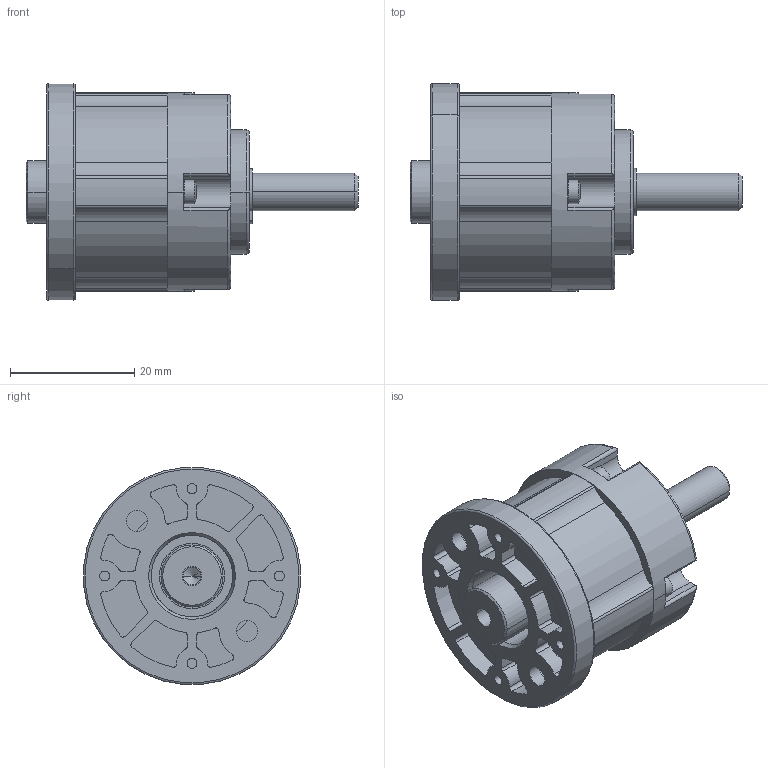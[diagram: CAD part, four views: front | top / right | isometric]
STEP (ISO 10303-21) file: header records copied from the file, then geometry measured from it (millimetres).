
FILE_DESCRIPTION((''),'2;1');
FILE_NAME('IMS32_ECO_1_STAGE_ASM','2023-07-27T09:24:16',('mhummel'),(''),'CREO PARAMETRIC BY PTC INC, 2020184','CREO PARAMETRIC BY PTC INC, 2020184','');
FILE_SCHEMA(('AUTOMOTIVE_DESIGN { 1 0 10303 214 1 1 1 1 }'));
Length unit declared in the file: millimetre
Products named in the file (12): IMS32_ECO_BALL_BEARING; IMS32_ECO_SINTERED_BEARING; IMS32_ECO_RING_GEAR_1_STAGE; IMS32_ECO_MOTOR_FLANGE; IMS32_ECO_SHAFT_RAW_AF0; IMS32_ECO_SHAFT_ASM; IMS32_ECO_RETAINING_RING_A; IMS32_ECO_THRUST_WASHER; IMS32_ECO_SCREW_1_STAGE; IMS32_ECO_MOTOR_PINION_LONG; IMS32_ECO_MOTOR_PINION_SHORT; IMS32_ECO_1_STAGE_ASM
Assembly tree (14 placements, depth 3):
  IMS32_ECO_1_STAGE_ASM
    IMS32_ECO_BALL_BEARING
    IMS32_ECO_SINTERED_BEARING
    IMS32_ECO_RING_GEAR_1_STAGE
    IMS32_ECO_MOTOR_FLANGE
    IMS32_ECO_SHAFT_ASM
      IMS32_ECO_SHAFT_RAW_AF0
    IMS32_ECO_RETAINING_RING_A
    IMS32_ECO_THRUST_WASHER
    IMS32_ECO_SCREW_1_STAGE  x4
    IMS32_ECO_MOTOR_PINION_LONG
    IMS32_ECO_MOTOR_PINION_SHORT
Bounding box: 53.4 x 34.87 x 34.87 mm (x, y, z)
Volume: 17779.2 mm3; surface area: 15765.1 mm2
Topology: 13 solids, 13 shells, 569 faces, 1384 edges, 879 vertices
Faces by surface type: cylinder 344, plane 133, cone 56, torus 28, sphere 8
Entity records: 17971 total; most frequent: DIRECTION 2724, CARTESIAN_POINT 2477, ORIENTED_EDGE 2236, AXIS2_PLACEMENT_3D 1146, PRESENTATION_STYLE_ASSIGNMENT 1128, STYLED_ITEM 1128, CURVE_STYLE 1118, EDGE_CURVE 1118
